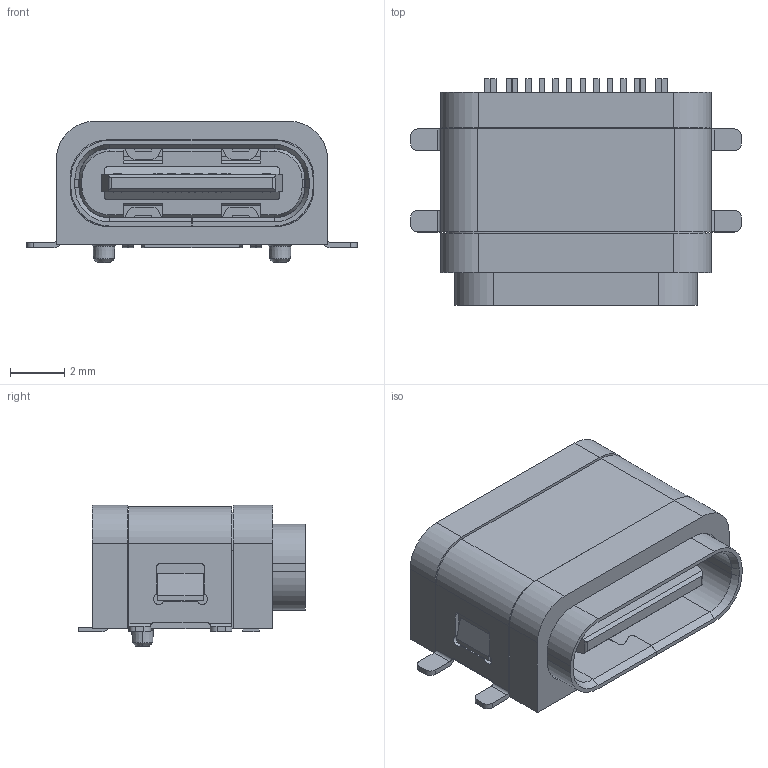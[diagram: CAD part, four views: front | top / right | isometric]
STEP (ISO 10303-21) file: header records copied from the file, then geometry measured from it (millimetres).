
FILE_DESCRIPTION((''),'2;1');
FILE_NAME('3383_4','2022-05-07T',('888'),(''),'PRO/ENGINEER BY PARAMETRIC TECHNOLOGY CORPORATION, 2010480','PRO/ENGINEER BY PARAMETRIC TECHNOLOGY CORPORATION, 2010480','');
FILE_SCHEMA(('AUTOMOTIVE_DESIGN_CC2 { 1 2 10303 214 -1 1 5 2 }'));
Length unit declared in the file: millimetre
Products named in the file (1): 3383_4
Bounding box: 12.19 x 8.35 x 5.21 mm (x, y, z)
Volume: 223.1 mm3; surface area: 904.3 mm2
Topology: 1 solids, 8 shells, 925 faces, 2697 edges, 1782 vertices
Faces by surface type: plane 678, cylinder 204, cone 41, bspline 2
Entity records: 32496 total; most frequent: CARTESIAN_POINT 5717, ORIENTED_EDGE 5394, DIRECTION 5059, EDGE_CURVE 2697, VECTOR 2103, LINE 2103, VERTEX_POINT 1782, AXIS2_PLACEMENT_3D 1478
